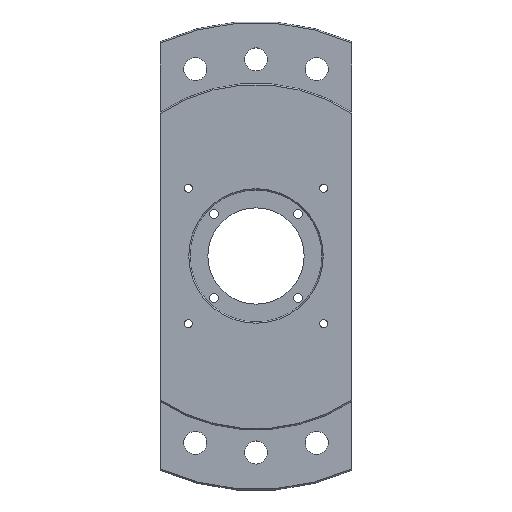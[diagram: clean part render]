
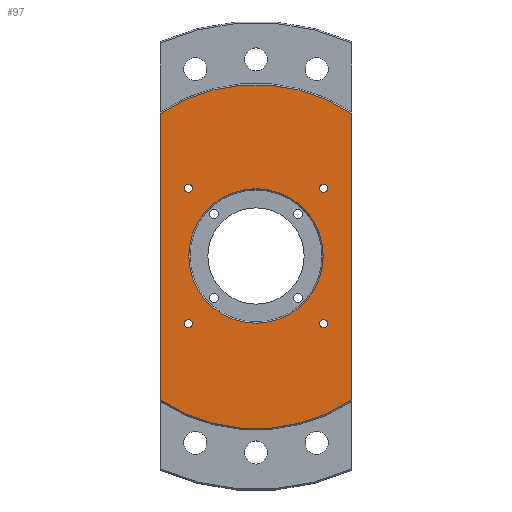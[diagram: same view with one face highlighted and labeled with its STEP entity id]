
A CAD part, top view. The second image highlights one B-rep face of the part: STEP entity #97.
In plain terms, the highlighted planar face has unit normal (0, 0, 1).
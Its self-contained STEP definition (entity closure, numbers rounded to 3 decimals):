
#12 = CIRCLE ( 'NONE', #1509, 2.984 ) ;
#21 = ORIENTED_EDGE ( 'NONE', *, *, #22, .T. ) ;
#22 = EDGE_CURVE ( 'NONE', #961, #2215, #362, .T. ) ;
#41 = VERTEX_POINT ( 'NONE', #2113 ) ;
#74 = EDGE_CURVE ( 'NONE', #589, #2437, #1887, .T. ) ;
#92 = DIRECTION ( 'NONE',  ( -1., 0., 0. ) ) ;
#97 = ADVANCED_FACE ( 'NONE', ( #1639, #857, #2047, #875, #476, #489 ), #1286, .F. ) ;
#146 = CIRCLE ( 'NONE', #230, 131. ) ;
#149 = ORIENTED_EDGE ( 'NONE', *, *, #2273, .T. ) ;
#175 = EDGE_CURVE ( 'NONE', #2437, #589, #442, .T. ) ;
#182 = CARTESIAN_POINT ( 'NONE',  ( 72.5, 107.906, 20. ) ) ;
#186 = EDGE_LOOP ( 'NONE', ( #1347, #950 ) ) ;
#197 = DIRECTION ( 'NONE',  ( 0., -1., 0. ) ) ;
#220 = CARTESIAN_POINT ( 'NONE',  ( 51.265, 51.265, 20. ) ) ;
#224 = AXIS2_PLACEMENT_3D ( 'NONE', #374, #2301, #798 ) ;
#228 = VERTEX_POINT ( 'NONE', #748 ) ;
#230 = AXIS2_PLACEMENT_3D ( 'NONE', #357, #1891, #2070 ) ;
#247 = VERTEX_POINT ( 'NONE', #954 ) ;
#270 = CARTESIAN_POINT ( 'NONE',  ( 0., 0., 20. ) ) ;
#302 = VERTEX_POINT ( 'NONE', #761 ) ;
#318 = EDGE_CURVE ( 'NONE', #1471, #41, #1656, .T. ) ;
#325 = ORIENTED_EDGE ( 'NONE', *, *, #959, .T. ) ;
#331 = CARTESIAN_POINT ( 'NONE',  ( 51., 0., 20. ) ) ;
#357 = CARTESIAN_POINT ( 'NONE',  ( 0., 0., 20. ) ) ;
#362 = CIRCLE ( 'NONE', #2410, 2.984 ) ;
#374 = CARTESIAN_POINT ( 'NONE',  ( -51.265, 51.265, 20. ) ) ;
#375 = CIRCLE ( 'NONE', #623, 2.984 ) ;
#388 = CIRCLE ( 'NONE', #1401, 51. ) ;
#442 = CIRCLE ( 'NONE', #987, 2.984 ) ;
#476 = FACE_BOUND ( 'NONE', #2050, .T. ) ;
#483 = AXIS2_PLACEMENT_3D ( 'NONE', #814, #1625, #1651 ) ;
#489 = FACE_OUTER_BOUND ( 'NONE', #1282, .T. ) ;
#518 = EDGE_CURVE ( 'NONE', #753, #1970, #1709, .T. ) ;
#532 = EDGE_LOOP ( 'NONE', ( #2419, #1082 ) ) ;
#557 = CARTESIAN_POINT ( 'NONE',  ( -51., 0., 20. ) ) ;
#589 = VERTEX_POINT ( 'NONE', #2316 ) ;
#591 = DIRECTION ( 'NONE',  ( -1., 0., 0. ) ) ;
#623 = AXIS2_PLACEMENT_3D ( 'NONE', #220, #2138, #591 ) ;
#651 = DIRECTION ( 'NONE',  ( 0., 0., -1. ) ) ;
#657 = DIRECTION ( 'NONE',  ( 0., 0., 1. ) ) ;
#692 = CARTESIAN_POINT ( 'NONE',  ( -51.265, -51.265, 20. ) ) ;
#729 = DIRECTION ( 'NONE',  ( 0., 0., -1. ) ) ;
#743 = ORIENTED_EDGE ( 'NONE', *, *, #74, .T. ) ;
#748 = CARTESIAN_POINT ( 'NONE',  ( 51.265, -48.281, 20. ) ) ;
#750 = DIRECTION ( 'NONE',  ( 0., 1., 0. ) ) ;
#753 = VERTEX_POINT ( 'NONE', #1462 ) ;
#761 = CARTESIAN_POINT ( 'NONE',  ( 51.265, -54.249, 20. ) ) ;
#798 = DIRECTION ( 'NONE',  ( 0., -1., 0. ) ) ;
#801 = CARTESIAN_POINT ( 'NONE',  ( 0., 0., 20. ) ) ;
#811 = CARTESIAN_POINT ( 'NONE',  ( 54.249, 51.265, 20. ) ) ;
#814 = CARTESIAN_POINT ( 'NONE',  ( -51.265, -51.265, 20. ) ) ;
#815 = CARTESIAN_POINT ( 'NONE',  ( -48.281, -51.265, 20. ) ) ;
#847 = ORIENTED_EDGE ( 'NONE', *, *, #318, .T. ) ;
#857 = FACE_BOUND ( 'NONE', #532, .T. ) ;
#875 = FACE_BOUND ( 'NONE', #186, .T. ) ;
#902 = ORIENTED_EDGE ( 'NONE', *, *, #175, .T. ) ;
#911 = AXIS2_PLACEMENT_3D ( 'NONE', #1756, #657, #1175 ) ;
#934 = EDGE_CURVE ( 'NONE', #2215, #961, #375, .T. ) ;
#950 = ORIENTED_EDGE ( 'NONE', *, *, #518, .T. ) ;
#954 = CARTESIAN_POINT ( 'NONE',  ( -72.5, -109.109, 20. ) ) ;
#959 = EDGE_CURVE ( 'NONE', #41, #247, #2341, .T. ) ;
#961 = VERTEX_POINT ( 'NONE', #811 ) ;
#964 = EDGE_CURVE ( 'NONE', #302, #228, #12, .T. ) ;
#987 = AXIS2_PLACEMENT_3D ( 'NONE', #692, #1271, #1061 ) ;
#1061 = DIRECTION ( 'NONE',  ( 1., 0., 0. ) ) ;
#1076 = CIRCLE ( 'NONE', #1989, 2.984 ) ;
#1077 = EDGE_LOOP ( 'NONE', ( #902, #743 ) ) ;
#1079 = AXIS2_PLACEMENT_3D ( 'NONE', #2312, #1707, #197 ) ;
#1082 = ORIENTED_EDGE ( 'NONE', *, *, #964, .T. ) ;
#1087 = CARTESIAN_POINT ( 'NONE',  ( 0., 0., 20. ) ) ;
#1106 = VECTOR ( 'NONE', #1922, 1000. ) ;
#1140 = DIRECTION ( 'NONE',  ( -1., 0., 0. ) ) ;
#1174 = CARTESIAN_POINT ( 'NONE',  ( 48.281, 51.265, 20. ) ) ;
#1175 = DIRECTION ( 'NONE',  ( -1., 0., 0. ) ) ;
#1189 = ORIENTED_EDGE ( 'NONE', *, *, #2098, .T. ) ;
#1212 = VERTEX_POINT ( 'NONE', #1569 ) ;
#1224 = EDGE_CURVE ( 'NONE', #228, #302, #1076, .T. ) ;
#1247 = DIRECTION ( 'NONE',  ( -1., 0., 0. ) ) ;
#1271 = DIRECTION ( 'NONE',  ( 0., 0., -1. ) ) ;
#1282 = EDGE_LOOP ( 'NONE', ( #1883, #847, #325, #1189 ) ) ;
#1286 = PLANE ( 'NONE',  #2481 ) ;
#1347 = ORIENTED_EDGE ( 'NONE', *, *, #1434, .T. ) ;
#1352 = DIRECTION ( 'NONE',  ( 0., 1., 0. ) ) ;
#1355 = CARTESIAN_POINT ( 'NONE',  ( 72.5, -2250., 20. ) ) ;
#1372 = EDGE_CURVE ( 'NONE', #2427, #2076, #388, .T. ) ;
#1401 = AXIS2_PLACEMENT_3D ( 'NONE', #1087, #729, #1247 ) ;
#1428 = DIRECTION ( 'NONE',  ( 0., 0., -1. ) ) ;
#1434 = EDGE_CURVE ( 'NONE', #1970, #753, #1519, .T. ) ;
#1462 = CARTESIAN_POINT ( 'NONE',  ( -51.265, 54.249, 20. ) ) ;
#1471 = VERTEX_POINT ( 'NONE', #182 ) ;
#1509 = AXIS2_PLACEMENT_3D ( 'NONE', #1952, #1755, #1352 ) ;
#1519 = CIRCLE ( 'NONE', #1079, 2.984 ) ;
#1549 = EDGE_CURVE ( 'NONE', #1212, #1471, #1942, .T. ) ;
#1561 = DIRECTION ( 'NONE',  ( -1., 0., 0. ) ) ;
#1569 = CARTESIAN_POINT ( 'NONE',  ( 72.5, -109.109, 20. ) ) ;
#1625 = DIRECTION ( 'NONE',  ( 0., 0., -1. ) ) ;
#1627 = EDGE_LOOP ( 'NONE', ( #149, #1750 ) ) ;
#1639 = FACE_BOUND ( 'NONE', #1627, .T. ) ;
#1651 = DIRECTION ( 'NONE',  ( 1., 0., 0. ) ) ;
#1656 = CIRCLE ( 'NONE', #911, 130. ) ;
#1707 = DIRECTION ( 'NONE',  ( 0., 0., -1. ) ) ;
#1709 = CIRCLE ( 'NONE', #224, 2.984 ) ;
#1750 = ORIENTED_EDGE ( 'NONE', *, *, #1372, .T. ) ;
#1755 = DIRECTION ( 'NONE',  ( 0., 0., -1. ) ) ;
#1756 = CARTESIAN_POINT ( 'NONE',  ( 0., 0., 20. ) ) ;
#1781 = CARTESIAN_POINT ( 'NONE',  ( -51.265, 48.281, 20. ) ) ;
#1883 = ORIENTED_EDGE ( 'NONE', *, *, #1549, .T. ) ;
#1887 = CIRCLE ( 'NONE', #483, 2.984 ) ;
#1891 = DIRECTION ( 'NONE',  ( 0., 0., 1. ) ) ;
#1922 = DIRECTION ( 'NONE',  ( 0., -1., 0. ) ) ;
#1938 = CARTESIAN_POINT ( 'NONE',  ( -72.5, -2250., 20. ) ) ;
#1942 = LINE ( 'NONE', #1355, #2396 ) ;
#1952 = CARTESIAN_POINT ( 'NONE',  ( 51.265, -51.265, 20. ) ) ;
#1970 = VERTEX_POINT ( 'NONE', #1781 ) ;
#1989 = AXIS2_PLACEMENT_3D ( 'NONE', #2118, #1428, #2329 ) ;
#2047 = FACE_BOUND ( 'NONE', #1077, .T. ) ;
#2050 = EDGE_LOOP ( 'NONE', ( #2372, #21 ) ) ;
#2070 = DIRECTION ( 'NONE',  ( 1., 0., 0. ) ) ;
#2076 = VERTEX_POINT ( 'NONE', #331 ) ;
#2098 = EDGE_CURVE ( 'NONE', #247, #1212, #146, .T. ) ;
#2113 = CARTESIAN_POINT ( 'NONE',  ( -72.5, 107.906, 20. ) ) ;
#2118 = CARTESIAN_POINT ( 'NONE',  ( 51.265, -51.265, 20. ) ) ;
#2125 = AXIS2_PLACEMENT_3D ( 'NONE', #801, #2137, #1561 ) ;
#2137 = DIRECTION ( 'NONE',  ( 0., 0., -1. ) ) ;
#2138 = DIRECTION ( 'NONE',  ( 0., 0., -1. ) ) ;
#2215 = VERTEX_POINT ( 'NONE', #1174 ) ;
#2273 = EDGE_CURVE ( 'NONE', #2076, #2427, #2354, .T. ) ;
#2292 = DIRECTION ( 'NONE',  ( 0., 0., -1. ) ) ;
#2300 = CARTESIAN_POINT ( 'NONE',  ( 51.265, 51.265, 20. ) ) ;
#2301 = DIRECTION ( 'NONE',  ( 0., 0., -1. ) ) ;
#2312 = CARTESIAN_POINT ( 'NONE',  ( -51.265, 51.265, 20. ) ) ;
#2316 = CARTESIAN_POINT ( 'NONE',  ( -54.249, -51.265, 20. ) ) ;
#2329 = DIRECTION ( 'NONE',  ( 0., 1., 0. ) ) ;
#2341 = LINE ( 'NONE', #1938, #1106 ) ;
#2354 = CIRCLE ( 'NONE', #2125, 51. ) ;
#2372 = ORIENTED_EDGE ( 'NONE', *, *, #934, .T. ) ;
#2396 = VECTOR ( 'NONE', #750, 1000. ) ;
#2410 = AXIS2_PLACEMENT_3D ( 'NONE', #2300, #2292, #1140 ) ;
#2419 = ORIENTED_EDGE ( 'NONE', *, *, #1224, .T. ) ;
#2427 = VERTEX_POINT ( 'NONE', #557 ) ;
#2437 = VERTEX_POINT ( 'NONE', #815 ) ;
#2481 = AXIS2_PLACEMENT_3D ( 'NONE', #270, #651, #92 ) ;
